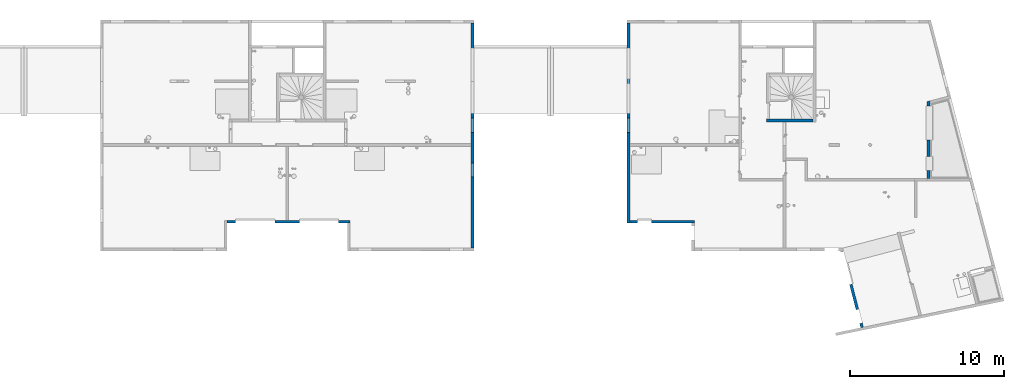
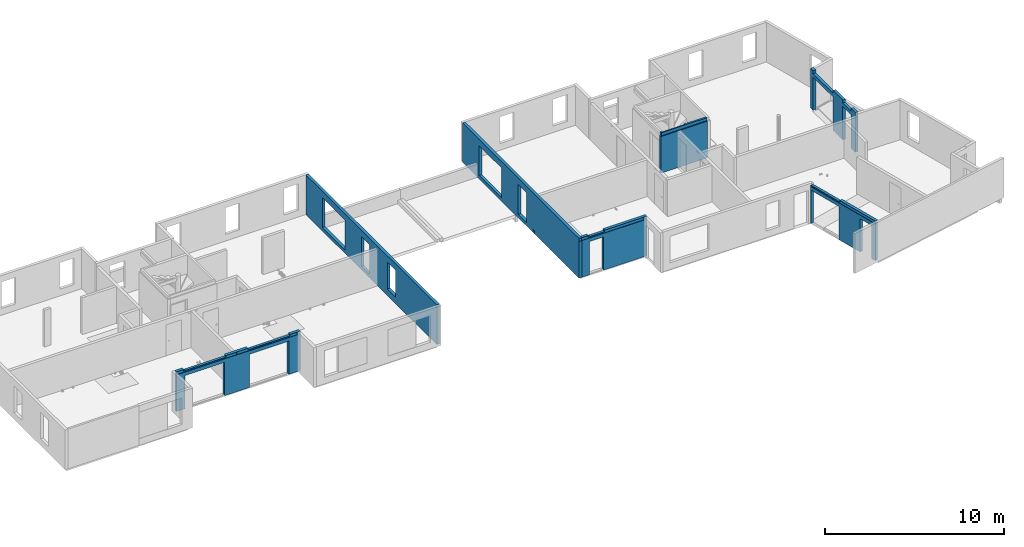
# One storey, part 18 of 24: 7 walls.
"""IFC2X3 building model written with IfcOpenShell, lengths in centimetres."""

from ifc_helpers import new_model, entity, si_unit, converted_unit, derived_unit, direction, frame, origin, place, context, subcontext, project, spatial, faceted_brep, material, layer, layer_set, type_object, element, save


model = new_model("IFC2X3")

# Units and contexts
model_context = context("Model", 3, precision=0.001, world=origin(), true_north=direction((6.12303176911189e-17, 1.0)))
body_context = subcontext(model_context, "Body", "Model", "MODEL_VIEW")
ifc_project = project(units=[si_unit("LENGTHUNIT", "METRE", prefix="CENTI"), si_unit("AREAUNIT", "SQUARE_METRE"), si_unit("VOLUMEUNIT", "CUBIC_METRE"), converted_unit("PLANEANGLEUNIT", "DEGREE", entity("IfcRatioMeasure", 0.0174532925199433), si_unit("PLANEANGLEUNIT", "RADIAN"), dimensions=[0, 0, 0, 0, 0, 0, 0]), si_unit("MASSUNIT", "GRAM", prefix="KILO"), derived_unit("MASSDENSITYUNIT", [(si_unit("MASSUNIT", "GRAM", prefix="KILO"), 1), (si_unit("LENGTHUNIT", "METRE"), -3)]), si_unit("TIMEUNIT", "SECOND"), si_unit("FREQUENCYUNIT", "HERTZ"), si_unit("THERMODYNAMICTEMPERATUREUNIT", "DEGREE_CELSIUS"), derived_unit("THERMALTRANSMITTANCEUNIT", [(si_unit("MASSUNIT", "GRAM", prefix="KILO"), 1), (si_unit("THERMODYNAMICTEMPERATUREUNIT", "KELVIN"), -1), (si_unit("TIMEUNIT", "SECOND"), -3)]), derived_unit("VOLUMETRICFLOWRATEUNIT", [(si_unit("LENGTHUNIT", "METRE"), 3), (si_unit("TIMEUNIT", "SECOND"), -1)]), si_unit("ELECTRICCURRENTUNIT", "AMPERE"), si_unit("ELECTRICVOLTAGEUNIT", "VOLT"), si_unit("POWERUNIT", "WATT"), si_unit("FORCEUNIT", "NEWTON"), si_unit("ILLUMINANCEUNIT", "LUX"), si_unit("LUMINOUSFLUXUNIT", "LUMEN"), si_unit("LUMINOUSINTENSITYUNIT", "CANDELA"), derived_unit("USERDEFINED", [(si_unit("MASSUNIT", "GRAM", prefix="KILO"), -1), (si_unit("LENGTHUNIT", "METRE"), -2), (si_unit("TIMEUNIT", "SECOND"), 3), (si_unit("LUMINOUSFLUXUNIT", "LUMEN"), 1)]), derived_unit("LINEARVELOCITYUNIT", [(si_unit("LENGTHUNIT", "METRE"), 1), (si_unit("TIMEUNIT", "SECOND"), -1)]), si_unit("PRESSUREUNIT", "PASCAL"), derived_unit("USERDEFINED", [(si_unit("LENGTHUNIT", "METRE"), -2), (si_unit("MASSUNIT", "GRAM", prefix="KILO"), 1), (si_unit("TIMEUNIT", "SECOND"), -2)])], contexts=[model_context])

# Site, building, storey
site_placement = place(None, origin())
site = spatial("IfcSite", under=ifc_project, at=site_placement, Name="Default", CompositionType="ELEMENT")
building_placement = place(site_placement, origin())
building = spatial("IfcBuilding", under=site, at=building_placement, Name="CAGE 03", CompositionType="ELEMENT")
storey_placement = place(building_placement, frame((0.0, 0.0, 880.0)))
storey = spatial("IfcBuildingStorey", under=building, at=storey_placement, Name="R+3", CompositionType="ELEMENT", Elevation=880.0)

# Walls
ifc_material = material(Name="Béton, C25/30")
ifc_layer = layer(ifc_material, 18.0)
ifc_layer_set = layer_set([ifc_layer], Name="Mur de base:Voile BA 18")
wall_type_1 = type_object("IfcWallType", Name="Mur de base:Voile BA 18", PredefinedType="STANDARD", material=ifc_layer_set)
wall_1_placement = place(storey_placement, frame((6691.36582014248, 3985.6606660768, 0.0)))
element("IfcWall", 1, at=wall_1_placement, inside=storey, type_object=wall_type_1, Name="Mur de base:Voile BA 18", ObjectType="Mur de base:Voile BA 18", context=body_context, shape_type="Brep", body=[
    faceted_brep([(0.0, -9.0, 270.0), (0.0, -9.0, 0.0), (56.0, -9.0, 0.0), (56.0, -9.0, 226.0), (311.0, -9.0, 226.0), (311.0, -9.0, 0.0), (469.0, -9.0, 0.0), (469.0, -9.0, 226.0), (724.0, -9.0, 226.0), (724.0, -9.0, 0.0), (780.0, -9.0, 0.0), (798.0, -9.0, 0.0), (798.0, -9.0, 250.0), (798.0, -9.0, 270.0), (780.0, -9.0, 270.0), (724.0, -9.0, 270.0), (724.0, -9.0, 269.589956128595), (779.0, -9.0, 269.589956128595), (779.0, -9.0, 250.0), (776.0, -9.0, 250.0), (776.0, -9.0, 251.0), (775.0, -9.0, 251.466307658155), (775.0, -9.0, 250.0), (394.499999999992, -9.0, 250.0), (394.499999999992, -9.0, 251.466307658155), (393.499999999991, -9.0, 251.0), (393.499999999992, -9.0, 250.0), (390.499999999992, -9.0, 250.0), (390.499999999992, -9.0, 269.589956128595), (469.0, -9.0, 269.589956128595), (469.0, -9.0, 270.0), (311.0, -9.0, 270.0), (311.0, -9.0, 269.589956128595), (389.5, -9.0, 269.589956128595), (389.5, -9.0, 250.0), (386.499999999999, -9.0, 250.0), (386.499999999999, -9.0, 251.0), (385.499999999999, -9.0, 251.466307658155), (385.5, -9.0, 250.0), (5.0, -9.0, 250.0), (5.0, -9.0, 251.466307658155), (4.0, -9.0, 251.0), (4.0, -9.0, 250.0), (1.0, -9.0, 250.0), (1.0, -9.0, 269.589956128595), (56.0, -9.0, 269.589956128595), (56.0, -9.0, 270.0), (56.0, 9.0, 0.0), (0.0, 9.0, 0.0), (0.0, 9.0, 250.0), (0.0, 9.0, 270.0), (48.0, 9.0, 270.0), (48.0, 9.0, 258.0), (319.0, 9.0, 258.0), (319.0, 9.0, 270.0), (461.0, 9.0, 270.0), (461.0, 9.0, 258.0), (732.0, 9.0, 258.0), (732.0, 9.0, 270.0), (798.0, 9.0, 270.0), (798.0, 9.0, 250.0), (798.0, 9.0, 0.0), (724.0, 9.0, 0.0), (724.0, 9.0, 226.0), (469.0, 9.0, 226.0), (469.0, 9.0, 0.0), (399.0, 9.0, 0.0), (381.0, 9.0, 0.0), (311.0, 9.0, 0.0), (311.0, 9.0, 226.0), (56.0, 9.0, 226.0), (732.0, -7.0, 270.0), (724.0, -7.0, 270.0), (389.5, -7.0, 250.0), (389.5, -7.0, 269.609958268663), (319.0, -7.0, 269.609958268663), (319.0, -7.0, 258.0), (48.0, -7.0, 258.0), (48.0, -7.0, 269.609958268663), (1.0, -7.0, 269.609958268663), (1.0, -7.0, 250.0), (4.0, -7.0, 250.0), (4.0, -7.0, 251.0), (5.0, -7.0, 251.466307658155), (5.0, -7.0, 250.0), (385.5, -7.0, 250.0), (385.5, -7.0, 251.466307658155), (386.499999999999, -7.0, 251.0), (386.499999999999, -7.0, 250.0), (461.0, -7.0, 258.0), (732.0, -7.0, 258.0), (394.499999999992, -7.0, 250.0), (775.0, -7.0, 250.0), (775.0, -7.0, 251.466307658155), (776.0, -7.0, 251.0), (776.0, -7.0, 250.0), (779.0, -7.0, 250.0), (779.0, -7.0, 269.609958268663), (732.0, -7.0, 269.609958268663), (461.0, -7.0, 269.609958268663), (390.499999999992, -7.0, 269.609958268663), (390.499999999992, -7.0, 250.0), (393.499999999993, -7.0, 250.0), (393.499999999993, -7.0, 251.0), (394.499999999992, -7.0, 251.466307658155), (56.0, -7.0, 269.609958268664), (56.0, -7.0, 270.0), (311.0, -7.0, 269.609958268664), (311.0, -7.0, 270.0), (469.0, -7.0, 269.609958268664), (469.0, -7.0, 270.0), (724.0, -7.0, 269.609958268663), (319.0, -7.0, 270.0), (48.0, -7.0, 270.0), (461.0, -7.0, 270.0)], [[[0, 1, 2, 3, 4, 5, 6, 7, 8, 9, 10, 11, 12, 13, 14, 15, 16, 17, 18, 19, 20, 21, 22, 23, 24, 25, 26, 27, 28, 29, 30, 31, 32, 33, 34, 35, 36, 37, 38, 39, 40, 41, 42, 43, 44, 45, 46]], [[47, 48, 49, 50, 51, 52, 53, 54, 55, 56, 57, 58, 59, 60, 61, 62, 63, 64, 65, 66, 67, 68, 69, 70]], [[1, 48, 47, 2]], [[13, 59, 58, 71, 72, 15, 14]], [[1, 0, 50, 49, 48]], [[11, 61, 60, 59, 13, 12]], [[4, 69, 68, 5]], [[69, 4, 3, 70]], [[70, 3, 2, 47]], [[8, 63, 62, 9]], [[63, 8, 7, 64]], [[64, 7, 6, 65]], [[73, 74, 75, 76, 77, 78, 79, 80, 81, 82, 83, 84, 85, 86, 87, 88]], [[56, 89, 90, 57]], [[91, 92, 93, 94, 95, 96, 97, 98, 90, 89, 99, 100, 101, 102, 103, 104]], [[45, 105, 106, 46]], [[107, 32, 31, 108]], [[52, 77, 76, 53]], [[81, 80, 43, 42]], [[105, 45, 44, 79, 78]], [[74, 73, 34, 33]], [[80, 79, 44, 43]], [[30, 29, 109, 110]], [[16, 15, 72, 111]], [[102, 101, 27, 26]], [[99, 109, 29, 28, 100]], [[97, 96, 18, 17]], [[101, 100, 28, 27]], [[75, 107, 108, 112]], [[105, 78, 113, 106]], [[88, 87, 36, 35]], [[86, 85, 38, 37]], [[87, 86, 37, 36]], [[82, 81, 42, 41]], [[84, 83, 40, 39]], [[83, 82, 41, 40]], [[98, 111, 72, 71]], [[109, 99, 114, 110]], [[95, 94, 20, 19]], [[93, 92, 22, 21]], [[94, 93, 21, 20]], [[103, 102, 26, 25]], [[91, 104, 24, 23]], [[104, 103, 25, 24]], [[76, 75, 112, 54, 53]], [[78, 77, 52, 51, 113]], [[90, 98, 71, 58, 57]], [[99, 89, 56, 55, 114]], [[98, 97, 17, 16, 111]], [[92, 91, 23, 22]], [[96, 95, 19, 18]], [[74, 33, 32, 107, 75]], [[85, 84, 39, 38]], [[73, 88, 35, 34]], [[31, 30, 110, 114, 55, 54, 112, 108]], [[50, 0, 46, 106, 113, 51]], [[5, 68, 67, 66, 65, 6]], [[61, 11, 10, 9, 62]]]),
])
wall_2_placement = place(storey_placement, frame((8283.36582014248, 3814.6606660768, 0.0), z_axis=(0.0, 0.0, 1.0), x_axis=(0.0, 1.0, 0.0)))
element("IfcWall", 2, at=wall_2_placement, inside=storey, type_object=wall_type_1, Name="Mur de base:Voile BA 18", ObjectType="Mur de base:Voile BA 18", context=body_context, shape_type="Brep", body=[
    faceted_brep([(460.0, -9.0, 45.0), (460.0, -9.0, 226.0), (551.0, -9.0, 226.0), (551.0, -9.0, 45.0), (751.0, -9.0, 23.0), (751.0, -9.0, 226.0), (842.0, -9.0, 226.0), (842.0, -9.0, 23.0), (1026.0, -9.0, 23.0), (1026.0, -9.0, 226.0), (1277.0, -9.0, 226.0), (1277.0, -9.0, 23.0), (1461.0, -9.0, 270.0), (0.0, -9.0, 270.0), (0.0, -9.0, 0.0), (660.0, -9.0, 0.0), (660.0, -9.0, 23.0), (678.0, -9.0, 23.0), (678.0, -9.0, 0.0), (856.0, -9.0, 0.0), (872.0, -9.0, 0.0), (1081.0, -9.0, 0.0), (1296.0, -9.0, 0.0), (1314.0, -9.0, 0.0), (1461.0, -9.0, 0.0), (460.0, 9.0, 226.0), (460.0, 9.0, 45.0), (551.0, 9.0, 45.0), (551.0, 9.0, 226.0), (751.0, 9.0, 226.0), (751.0, 9.0, 23.0), (842.0, 9.0, 23.0), (842.0, 9.0, 226.0), (1026.0, 9.0, 226.0), (1026.0, 9.0, 23.0), (1277.0, 9.0, 23.0), (1277.0, 9.0, 226.0), (1461.0, 9.0, 0.0), (1314.0, 9.0, 0.0), (1296.0, 9.0, 0.0), (1081.0, 9.0, 0.0), (872.0, 9.0, 0.0), (678.0, 9.0, 0.0), (660.0, 9.0, 0.0), (0.0, 9.0, 0.0), (0.0, 9.0, 250.0), (0.0, 9.0, 270.0), (1461.0, 9.0, 270.0), (1461.0, 9.0, 250.0), (678.0, -7.0, 0.0), (660.0, -7.0, 0.0), (678.0, -7.0, 23.0), (660.0, -7.0, 23.0)], [[[0, 1, 2, 3], [4, 5, 6, 7], [8, 9, 10, 11], [12, 13, 14, 15, 16, 17, 18, 19, 20, 21, 22, 23, 24]], [[25, 26, 27, 28], [29, 30, 31, 32], [33, 34, 35, 36], [37, 38, 39, 40, 41, 42, 43, 44, 45, 46, 47, 48]], [[44, 43, 42, 41, 40, 39, 38, 37, 24, 23, 22, 21, 20, 19, 18, 49, 50, 15, 14]], [[13, 12, 47, 46]], [[14, 13, 46, 45, 44]], [[1, 0, 26, 25]], [[2, 1, 25, 28]], [[3, 2, 28, 27]], [[0, 3, 27, 26]], [[4, 30, 29, 5]], [[5, 29, 32, 6]], [[31, 7, 6, 32]], [[30, 4, 7, 31]], [[12, 24, 37, 48, 47]], [[9, 8, 34, 33]], [[10, 9, 33, 36]], [[11, 10, 36, 35]], [[8, 11, 35, 34]], [[51, 49, 18, 17]], [[52, 16, 15, 50]], [[49, 51, 52, 50]], [[52, 51, 17, 16]]], outer=[[False, False, False, True], [False, False, False, True], [True], [True], [True], [True], [True], [True], [True], [True], [True], [True], [True], [True], [True], [True], [True], [True], [True], [True], [True], [True]]),
])
wall_3_placement = place(storey_placement, frame((9293.36582014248, 5275.66066607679, 0.0), z_axis=(0.0, 0.0, 1.0), x_axis=(0.0, -1.0, 0.0)))
element("IfcWall", 3, at=wall_3_placement, inside=storey, type_object=wall_type_1, Name="Mur de base:Voile BA 18", ObjectType="Mur de base:Voile BA 18", context=body_context, shape_type="Brep", body=[
    faceted_brep([(710.0, -9.0, 226.0), (710.0, -9.0, 23.0), (619.0, -9.0, 23.0), (619.0, -9.0, 226.0), (0.0, -9.0, 270.0), (0.0, -9.0, 0.0), (147.0, -9.0, 0.0), (165.0, -9.0, 0.0), (365.0, -9.0, 0.0), (395.0, -9.0, 0.0), (589.0, -9.0, 0.0), (605.0, -9.0, 0.0), (783.0, -9.0, 0.0), (783.0, -9.0, 23.0), (801.0, -9.0, 23.0), (801.0, -9.0, 0.0), (1297.0, -9.0, 0.0), (1299.0, -9.0, 0.0), (1299.0, -9.0, 250.0), (1297.0, -9.0, 250.0), (1297.0, -9.0, 270.0), (435.0, -9.0, 226.0), (435.0, -9.0, 23.0), (184.0, -9.0, 23.0), (184.0, -9.0, 226.0), (710.0, 9.0, 23.0), (710.0, 9.0, 226.0), (619.0, 9.0, 226.0), (619.0, 9.0, 23.0), (435.0, 9.0, 23.0), (435.0, 9.0, 226.0), (184.0, 9.0, 226.0), (184.0, 9.0, 23.0), (1299.0, 9.0, 0.0), (1297.0, 9.0, 0.0), (1281.0, 9.0, 0.0), (801.0, 9.0, 0.0), (783.0, 9.0, 0.0), (607.0, 9.0, 0.0), (589.0, 9.0, 0.0), (395.0, 9.0, 0.0), (365.0, 9.0, 0.0), (165.0, 9.0, 0.0), (0.0, 9.0, 0.0), (0.0, 9.0, 250.0), (0.0, 9.0, 270.0), (1281.0, 9.0, 270.0), (1297.0, 9.0, 270.0), (1297.0, 9.0, 250.0), (1299.0, 9.0, 250.0), (801.0, -7.0, 0.0), (783.0, -7.0, 0.0), (1299.0, -5.0, 250.0), (1299.0, -5.0, 251.466307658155), (1299.0, -6.0, 251.0), (1299.0, -6.0, 250.0), (1297.0, -6.0, 250.0), (1297.0, -6.0, 251.0), (1297.0, -5.0, 251.466307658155), (1297.0, -5.0, 250.0), (783.0, -7.0, 23.0), (801.0, -7.0, 23.0)], [[[0, 1, 2, 3], [4, 5, 6, 7, 8, 9, 10, 11, 12, 13, 14, 15, 16, 17, 18, 19, 20], [21, 22, 23, 24]], [[25, 26, 27, 28], [29, 30, 31, 32], [33, 34, 35, 36, 37, 38, 39, 40, 41, 42, 43, 44, 45, 46, 47, 48, 49]], [[43, 42, 41, 40, 39, 38, 37, 36, 35, 34, 33, 17, 16, 15, 50, 51, 12, 11, 10, 9, 8, 7, 6, 5]], [[45, 4, 20, 47, 46]], [[17, 33, 49, 52, 53, 54, 55, 18]], [[25, 1, 0, 26]], [[26, 0, 3, 27]], [[2, 28, 27, 3]], [[1, 25, 28, 2]], [[5, 4, 45, 44, 43]], [[30, 29, 22, 21]], [[31, 30, 21, 24]], [[32, 31, 24, 23]], [[29, 32, 23, 22]], [[19, 56, 57, 58, 59, 48, 47, 20]], [[56, 19, 18, 55]], [[57, 56, 55, 54]], [[59, 58, 53, 52]], [[58, 57, 54, 53]], [[51, 60, 13, 12]], [[14, 61, 50, 15]], [[60, 51, 50, 61]], [[60, 61, 14, 13]], [[48, 59, 52, 49]]], outer=[[False, True, False], [False, False, True], [True], [True], [True], [True], [True], [True], [True], [True], [True], [True], [True], [True], [True], [True], [True], [True], [True], [True], [True], [True], [True], [True]]),
])
wall_4_placement = place(storey_placement, frame((9302.36582014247, 3985.66066607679, 0.0)))
element("IfcWall", 4, at=wall_4_placement, inside=storey, type_object=wall_type_1, Name="Mur de base:Voile BA 18", ObjectType="Mur de base:Voile BA 18", context=body_context, shape_type="Brep", body=[
    faceted_brep([(49.5000000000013, -9.0, 270.0), (49.0, -9.0, 270.0), (0.0, -9.0, 270.0), (0.0358741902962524, -9.0, 269.589956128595), (49.5000000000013, -9.0, 269.589956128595), (419.0, 9.0, 0.0), (147.500000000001, 9.0, 0.0), (140.0, 9.0, 0.0), (140.0, 9.0, 226.0), (49.0, 9.0, 226.0), (49.0, 9.0, 0.0), (41.5000000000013, 9.0, 0.0), (0.0, 9.0, 0.0), (0.0, 9.0, 250.0), (0.0, 9.0, 270.0), (41.5000000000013, 9.0, 270.0), (41.5000000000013, 9.0, 258.0), (147.500000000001, 9.0, 258.0), (147.500000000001, 9.0, 270.0), (419.0, 9.0, 270.0), (419.0, 9.0, 250.0), (0.0, -9.0, 0.0), (0.0, -7.0, 0.0), (49.0, -9.0, 0.0), (419.0, -9.0, 270.0), (147.500000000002, -7.0, 270.0), (139.500000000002, -7.0, 270.0), (139.500000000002, -9.0, 270.0), (140.0, -9.0, 270.0), (401.0, -9.0, 270.0), (0.0, -9.0, 250.0), (0.0, -7.0, 250.0), (0.0, -7.0, 270.0), (419.0, -9.0, 0.0), (419.0, -9.0, 250.0), (140.0, -9.0, 226.0), (140.0, -9.0, 0.0), (49.0, -9.0, 226.0), (0.034124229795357, -7.0, 269.609958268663), (400.0, -7.0, 250.0), (400.0, -7.0, 269.609958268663), (147.500000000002, -7.0, 269.609958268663), (147.500000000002, -7.0, 258.0), (41.5000000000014, -7.0, 258.0), (41.5000000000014, -7.0, 269.609958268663), (396.0, -7.0, 250.0), (396.0, -7.0, 251.466307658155), (397.0, -7.0, 251.0), (397.0, -7.0, 250.0), (49.5000000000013, -7.0, 269.609958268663), (49.5000000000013, -7.0, 270.0), (139.500000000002, -9.0, 269.589956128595), (139.500000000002, -7.0, 269.609958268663), (400.0, -9.0, 250.0), (400.0, -9.0, 269.589956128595), (396.0, -9.0, 250.0), (41.5000000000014, -7.0, 270.0), (397.0, -9.0, 251.0), (397.0, -9.0, 250.0), (396.0, -9.0, 251.466307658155), (401.0, -9.0, 0.0)], [[[0, 1, 2, 3, 4]], [[5, 6, 7, 8, 9, 10, 11, 12, 13, 14, 15, 16, 17, 18, 19, 20]], [[21, 22, 12, 11, 10, 23]], [[24, 19, 18, 25, 26, 27, 28, 29]], [[12, 22, 21, 30, 31, 32, 14, 13]], [[33, 5, 20, 19, 24, 34]], [[35, 8, 7, 36]], [[8, 35, 37, 9]], [[9, 37, 23, 10]], [[32, 38, 3, 2]], [[39, 40, 41, 42, 43, 44, 38, 32, 31, 45, 46, 47, 48]], [[0, 4, 49, 50]], [[51, 27, 26, 52]], [[16, 43, 42, 17]], [[40, 39, 53, 54]], [[38, 44, 49, 4, 3]], [[55, 45, 31, 30]], [[25, 41, 52, 26]], [[49, 44, 56, 50]], [[48, 47, 57, 58]], [[46, 45, 55, 59]], [[47, 46, 59, 57]], [[41, 25, 18, 17, 42]], [[44, 43, 16, 15, 56]], [[39, 48, 58, 53]], [[41, 40, 54, 51, 52]], [[2, 1, 0, 50, 56, 15, 14, 32]], [[5, 33, 60, 36, 7, 6]], [[36, 60, 33, 34, 24, 29, 28, 27, 51, 54, 53, 58, 57, 59, 55, 30, 21, 23, 37, 35]]]),
])
wall_5_placement = place(storey_placement, frame((10678.3331842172, 3798.9347832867, 0.0), z_axis=(0.0, 0.0, 1.0), x_axis=(0.252679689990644, -0.967549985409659, 0.0)))
element("IfcWall", 5, at=wall_5_placement, inside=storey, type_object=wall_type_1, Name="Mur de base:Voile BA 18", ObjectType="Mur de base:Voile BA 18", context=body_context, shape_type="Brep", body=[
    faceted_brep([(6.0409106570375, -9.0, 270.0), (0.0, -9.0, 270.0), (0.0, -9.0, 269.589956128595), (6.04091065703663, -9.0, 269.589956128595), (0.522308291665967, -7.0, 270.0), (0.522308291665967, -7.0, 269.609958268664), (6.0409106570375, -7.0, 269.609958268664), (6.04091065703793, -7.0, 270.0)], [[[0, 1, 2, 3]], [[2, 1, 4, 5]], [[0, 3, 6, 7]], [[5, 6, 3, 2]], [[6, 5, 4, 7]], [[1, 0, 7, 4]]]),
    faceted_brep([(515.782049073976, 9.0, 0.0), (486.040910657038, 9.0, 0.0), (486.040910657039, 9.0, 226.0), (395.040910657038, 9.0, 226.0), (395.040910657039, 9.0, 0.0), (234.040910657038, 9.0, 0.0), (226.040910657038, 9.0, 0.0), (226.040910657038, 9.0, 226.0), (6.04091065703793, 9.0, 226.0), (6.04091065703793, 9.0, 0.0), (4.70077462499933, 9.0, 0.0), (4.7007746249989, 9.0, 250.0), (4.7007746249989, 9.0, 258.0), (234.040910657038, 9.0, 258.0), (234.040910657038, 9.0, 270.0), (395.040910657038, 9.0, 270.0), (486.040910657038, 9.0, 270.0), (515.782049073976, 9.0, 270.0), (515.782049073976, 9.0, 250.0), (0.0, -9.0, 0.0), (0.522308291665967, -7.0, 0.0), (6.04091065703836, -7.0, 0.0), (6.04091065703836, -9.0, 0.0), (514.841757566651, -9.0, 270.0), (234.040910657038, -7.0, 270.0), (226.040910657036, -7.0, 270.0), (226.040910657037, -9.0, 270.0), (395.040910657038, -9.0, 270.0), (486.040910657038, -9.0, 270.0), (514.841757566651, -9.0, 0.0), (486.040910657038, -9.0, 226.0), (486.040910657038, -9.0, 0.0), (395.040910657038, -9.0, 226.0), (395.040910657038, -9.0, 0.0), (226.040910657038, -9.0, 226.0), (226.040910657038, -7.0, 0.0), (226.040910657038, -9.0, 0.0), (6.04091065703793, -9.0, 226.0), (0.522308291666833, -7.0, 258.0), (234.040910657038, -7.0, 258.0), (226.040910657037, -9.0, 269.589956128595), (226.040910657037, -7.0, 269.609958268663), (2.04091065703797, -7.0, 250.0), (509.939416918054, -7.0, 250.0), (509.939416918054, -7.0, 251.466307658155), (510.940780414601, -7.0, 251.0), (510.940780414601, -7.0, 250.0), (513.944870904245, -7.0, 250.0), (513.944870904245, -7.0, 269.609958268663), (234.040910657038, -7.0, 269.609958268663), (0.5223082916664, -7.0, 250.0), (1.04091065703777, -7.0, 250.0), (1.04091065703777, -7.0, 251.0), (2.04091065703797, -7.0, 251.466307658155), (1.04091065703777, -9.0, 250.0), (0.0, -9.0, 250.0), (513.840394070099, -9.0, 250.0), (513.840394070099, -9.0, 269.589956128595), (510.836303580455, -9.0, 251.0), (510.836303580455, -9.0, 250.0), (509.834940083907, -9.0, 250.0), (509.834940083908, -9.0, 251.466307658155), (1.04091065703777, -9.0, 251.0), (2.04091065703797, -9.0, 251.466307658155), (2.04091065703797, -9.0, 250.0)], [[[0, 1, 2, 3, 4, 5, 6, 7, 8, 9, 10, 11, 12, 13, 14, 15, 16, 17, 18]], [[19, 20, 10, 9, 21, 22]], [[23, 17, 16, 15, 14, 24, 25, 26, 27, 28]], [[23, 29, 0, 18, 17]], [[30, 2, 1, 31]], [[2, 30, 32, 3]], [[3, 32, 33, 4]], [[34, 7, 6, 35, 36]], [[7, 34, 37, 8]], [[8, 37, 22, 21, 9]], [[12, 38, 39, 13]], [[40, 26, 25, 41]], [[42, 43, 44, 45, 46, 47, 48, 49, 39, 38, 50, 51, 52, 53]], [[54, 51, 50, 55]], [[48, 47, 56, 57]], [[49, 41, 25, 24]], [[46, 45, 58, 59]], [[44, 43, 60, 61]], [[45, 44, 61, 58]], [[52, 51, 54, 62]], [[42, 53, 63, 64]], [[53, 52, 62, 63]], [[39, 49, 24, 14, 13]], [[49, 48, 57, 40, 41]], [[43, 42, 64, 60]], [[47, 46, 59, 56]], [[10, 20, 19, 55, 50, 38, 12, 11]], [[4, 33, 36, 35, 6, 5]], [[0, 29, 31, 1]], [[29, 23, 28, 27, 26, 40, 57, 56, 59, 58, 61, 60, 64, 63, 62, 54, 55, 19, 22, 37, 34, 36, 33, 32, 30, 31]]]),
])
wall_6_placement = place(storey_placement, frame((11239.3658201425, 4266.66066607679, 0.0), z_axis=(0.0, 0.0, 1.0), x_axis=(0.0, 1.0, 0.0)))
element("IfcWall", 6, at=wall_6_placement, inside=storey, type_object=wall_type_1, Name="Mur de base:Voile BA 18", ObjectType="Mur de base:Voile BA 18", context=body_context, shape_type="Brep", body=[
    faceted_brep([(0.0, -9.0, 0.0), (50.0, -9.0, 0.0), (50.0, -9.0, 226.0), (141.0, -9.0, 226.0), (141.0, -9.0, 0.0), (250.0, -9.0, 0.0), (250.0, -9.0, 226.0), (470.0, -9.0, 226.0), (470.0, -9.0, 0.0), (483.640736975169, -9.0, 0.0), (502.244426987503, -9.0, 0.0), (502.244426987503, -9.0, 250.0), (502.244426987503, -9.0, 270.0), (483.640736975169, -9.0, 270.0), (470.0, -9.0, 270.0), (470.0, -9.0, 269.609958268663), (470.0, -9.0, 265.0), (470.0, -9.0, 250.0), (250.0, -9.0, 250.0), (250.0, -9.0, 265.0), (250.0, -9.0, 269.609958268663), (250.0, -9.0, 270.0), (141.0, -9.0, 270.0), (141.0, -9.0, 269.609958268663), (141.0, -9.0, 265.0), (141.0, -9.0, 250.0), (50.0, -9.0, 250.0), (50.0, -9.0, 265.0), (50.0, -9.0, 269.609958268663), (50.0, -9.0, 270.0), (0.0, -9.0, 270.0), (0.0, -9.0, 269.609958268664), (0.0, -9.0, 250.0), (50.0, 9.0, 0.0), (0.0, 9.0, 0.0), (0.0, 9.0, 250.0), (0.0, 9.0, 270.0), (50.0, 9.0, 270.0), (50.0, 9.0, 250.0), (141.0, 9.0, 250.0), (141.0, 9.0, 270.0), (250.0, 9.0, 270.0), (250.0, 9.0, 250.0), (470.0, 9.0, 250.0), (470.0, 9.0, 270.0), (497.543652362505, 9.0, 270.0), (497.543652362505, 9.0, 250.0), (497.543652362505, 9.0, 0.0), (470.0, 9.0, 0.0), (470.0, 9.0, 226.0), (250.0, 9.0, 226.0), (250.0, 9.0, 0.0), (141.0, 9.0, 0.0), (141.0, 9.0, 226.0), (50.0, 9.0, 226.0)], [[[0, 1, 2, 3, 4, 5, 6, 7, 8, 9, 10, 11, 12, 13, 14, 15, 16, 17, 18, 19, 20, 21, 22, 23, 24, 25, 26, 27, 28, 29, 30, 31, 32]], [[33, 34, 35, 36, 37, 38, 39, 40, 41, 42, 43, 44, 45, 46, 47, 48, 49, 50, 51, 52, 53, 54]], [[1, 0, 34, 33]], [[12, 45, 44, 14, 13]], [[10, 47, 46, 45, 12, 11]], [[54, 2, 1, 33]], [[2, 54, 53, 3]], [[3, 53, 52, 4]], [[50, 6, 5, 51]], [[6, 50, 49, 7]], [[7, 49, 48, 8]], [[30, 36, 35, 34, 0, 32, 31]], [[41, 21, 20, 19, 18, 42]], [[14, 44, 43, 17, 16, 15]], [[37, 29, 28, 27, 26, 38]], [[22, 40, 39, 25, 24, 23]], [[25, 39, 38, 26]], [[42, 18, 17, 43]], [[22, 21, 41, 40]], [[36, 30, 29, 37]], [[4, 52, 51, 5]], [[47, 10, 9, 8, 48]]]),
])
wall_type_2 = type_object("IfcWallType", Name="Mur de base:premur 18", PredefinedType="NOTDEFINED")
wall_7_placement = place(storey_placement, frame((10490.3658201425, 4641.66066607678, 0.0), z_axis=(0.0, 0.0, 1.0), x_axis=(-1.0, 0.0, 0.0)))
element("IfcWall", 7, at=wall_7_placement, inside=storey, type_object=wall_type_2, Name="Mur de base:premur 18", ObjectType="Mur de base:premur 18", context=body_context, shape_type="Brep", body=[
    faceted_brep([(0.0, -9.0, 0.0), (141.0, -9.0, 0.0), (287.500000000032, -9.0, 0.0), (294.499999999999, -9.0, 0.0), (300.0, -9.0, 0.0), (300.0, -9.0, 210.0), (300.0, -9.0, 250.0), (294.499999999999, -9.0, 250.0), (294.499999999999, -9.0, 270.0), (287.500000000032, -9.0, 270.0), (287.500000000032, -9.0, 250.0), (141.0, -9.0, 250.0), (141.0, -9.0, 270.0), (0.0, -9.0, 270.0), (300.0, 9.0, 0.0), (0.0, 9.0, 0.0), (0.0, 9.0, 250.0), (175.0, 9.0, 250.0), (193.0, 9.0, 250.0), (300.0, 9.0, 250.0), (0.0, 3.4999999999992, 0.0), (294.499999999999, 3.50000000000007, 270.0), (0.0, 3.4999999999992, 270.0), (141.0, -3.49999999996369, 270.0), (287.500000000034, -3.50000000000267, 270.0), (0.0, 3.4999999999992, 250.0), (294.499999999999, 3.50000000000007, 250.0), (287.500000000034, -3.50000000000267, 250.0), (141.0, -3.49999999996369, 250.0)], [[[0, 1, 2, 3, 4, 5, 6, 7, 8, 9, 10, 11, 12, 13]], [[14, 15, 16, 17, 18, 19]], [[4, 3, 2, 1, 0, 20, 15, 14]], [[8, 21, 22, 13, 12, 23, 24, 9]], [[0, 13, 22, 25, 16, 15, 20]], [[4, 14, 19, 6, 5]], [[26, 7, 6, 19, 18, 17, 16, 25]], [[26, 21, 8, 7]], [[21, 26, 25, 22]], [[27, 28, 11, 10]], [[28, 23, 12, 11]], [[24, 27, 10, 9]], [[28, 27, 24, 23]]]),
])

save(model, "model.ifc")
